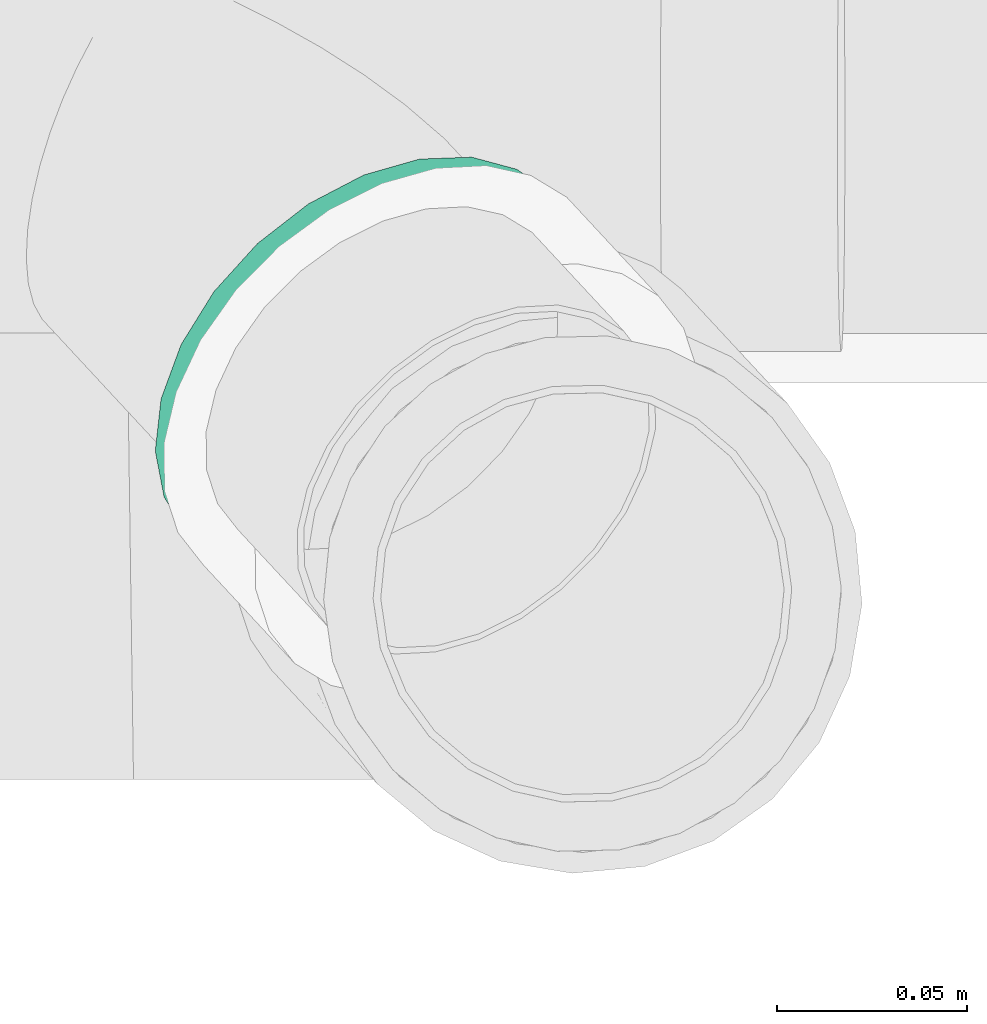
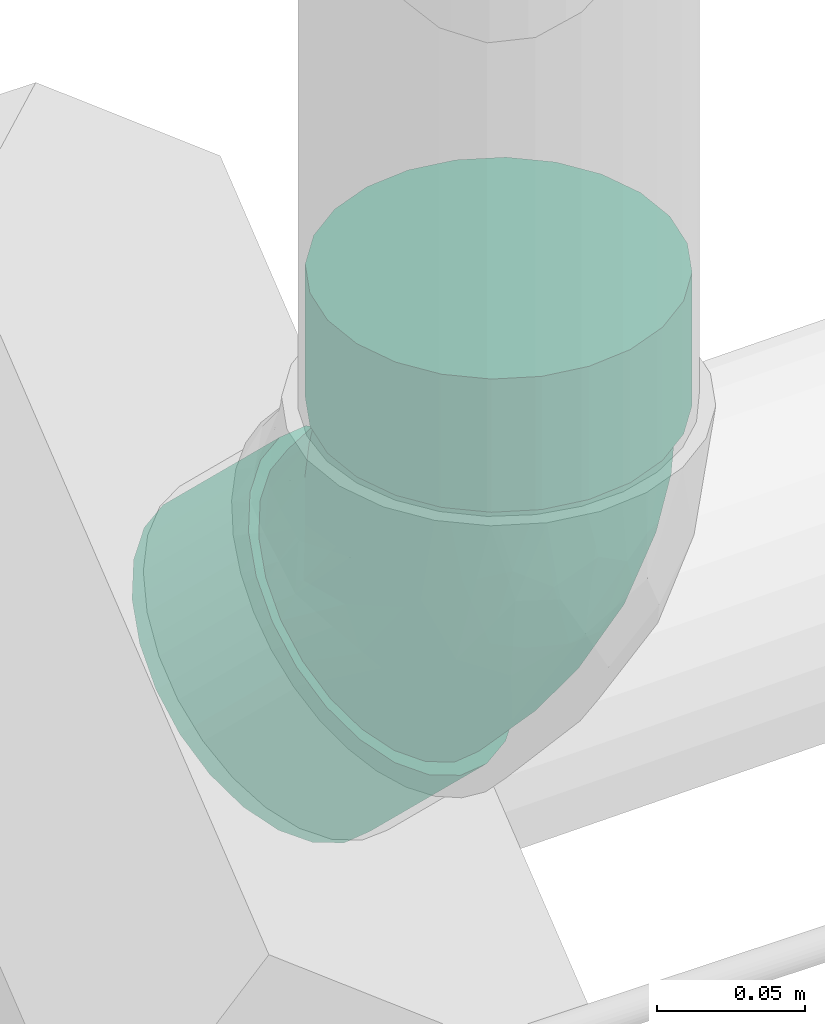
# One storey, part 116 of 156: 1 flow fitting.
"""IFC2X3 building model written with IfcOpenShell, lengths in millimetres."""

import ifcopenshell
import ifcopenshell.guid

model = None  # the IFC model being written
_history = None  # IfcOwnerHistory: only IFC2X3 demands one
_inside = {}  # id of a spatial element -> (the spatial element, [elements in it])
_under = {}  # id of a project, library or spatial element -> (it, [spatial elements below it])
_declared = {}  # id of a project -> (the project, [libraries it declares])
_typed = {}  # id of a type object -> (the type object, [elements of that type])
_made_of = {}  # id of a material, layer set ... -> (it, [elements and type objects made of it])


def new_model(schema):
    """Start an empty IFC model of exactly this schema.

    Asked for "IFC4X3", IfcOpenShell would pick the latest addendum, in which some entities
    have other attributes; the version numbers below select the first issue.
    IFC2X3 requires an IfcOwnerHistory on every rooted entity: one is made here for all.
    """
    global model, _history
    if schema == "IFC4X3":
        model = ifcopenshell.file(schema_version=(4, 3, 0, 0))
    else:
        model = ifcopenshell.file(schema=schema)
    _inside.clear()
    _under.clear()
    _declared.clear()
    _typed.clear()
    _made_of.clear()
    _history = None
    if model.schema == "IFC2X3":
        org = make("IfcOrganization", Name="unknown")
        user = make(
            "IfcPersonAndOrganization",
            ThePerson=make("IfcPerson", FamilyName="unknown"),
            TheOrganization=org,
        )
        app = make(
            "IfcApplication",
            ApplicationDeveloper=org,
            Version="unknown",
            ApplicationFullName="unknown",
            ApplicationIdentifier="unknown",
        )
        _history = make(
            "IfcOwnerHistory",
            OwningUser=user,
            OwningApplication=app,
            ChangeAction="ADDED",
            CreationDate=0,
        )
    return model


def make(cls, **values):
    """One entity of the class cls with the attributes given. An attribute that is None is left unset."""
    return model.create_entity(
        cls, **{name: value for name, value in values.items() if value is not None}
    )


def entity(cls, *values):
    """Any entity or typed value of the class cls, its attributes in the order of the schema. None: left unset."""
    e = model.create_entity(cls)
    for i, value in enumerate(values):
        if value is not None:
            e[i] = value
    return e


def rooted(cls, **values):
    """An entity with a GlobalId (a new one), such as an element, a storey or a relation."""
    return make(cls, GlobalId=ifcopenshell.guid.new(), OwnerHistory=_history, **values)


def si_unit(unit_type, name, prefix=None):
    """IfcSIUnit, for example si_unit("LENGTHUNIT", "METRE", prefix="MILLI")."""
    return make("IfcSIUnit", UnitType=unit_type, Prefix=prefix, Name=name)


def converted_unit(unit_type, name, factor, base, dimensions=None, offset=None):
    """IfcConversionBasedUnit, such as the inch: factor (a typed value) times the base unit."""
    return make(
        "IfcConversionBasedUnit"
        if offset is None
        else "IfcConversionBasedUnitWithOffset",
        ConversionOffset=offset,
        Dimensions=None
        if dimensions is None
        else entity("IfcDimensionalExponents", *dimensions),
        UnitType=unit_type,
        Name=name,
        ConversionFactor=make(
            "IfcMeasureWithUnit", ValueComponent=factor, UnitComponent=base
        ),
    )


def derived_unit(unit_type, elements):
    """IfcDerivedUnit: a product of units, each with its exponent."""
    return make(
        "IfcDerivedUnit",
        Elements=[
            make("IfcDerivedUnitElement", Unit=unit, Exponent=power)
            for unit, power in elements
        ],
        UnitType=unit_type,
    )


def assignment(units):
    """IfcUnitAssignment: the units of a project."""
    return None if units is None else make("IfcUnitAssignment", Units=units)


def point(xyz):
    """IfcCartesianPoint."""
    return None if xyz is None else make("IfcCartesianPoint", Coordinates=xyz)


def direction(xyz):
    """IfcDirection."""
    return None if xyz is None else make("IfcDirection", DirectionRatios=xyz)


def frame(location, z_axis=None, x_axis=None):
    """IfcAxis2Placement3D, a coordinate frame: its origin and axes. An axis left out is left unset."""
    return make(
        "IfcAxis2Placement3D",
        Location=point(location),
        Axis=direction(z_axis),
        RefDirection=direction(x_axis),
    )


def origin_with_axes():
    """The frame at (0, 0, 0) with the z axis (0, 0, 1) and the x axis (1, 0, 0) written out."""
    return frame((0.0, 0.0, 0.0), z_axis=(0.0, 0.0, 1.0), x_axis=(1.0, 0.0, 0.0))


def place(relative_to, where):
    """IfcLocalPlacement: puts the frame where relative to a parent placement (None: the world)."""
    return make(
        "IfcLocalPlacement", PlacementRelTo=relative_to, RelativePlacement=where
    )


def context(
    kind, dimensions, precision=None, world=None, true_north=None, identifier=None
):
    """IfcGeometricRepresentationContext, for example the 3D "Model" context."""
    return make(
        "IfcGeometricRepresentationContext",
        ContextIdentifier=identifier,
        ContextType=kind,
        CoordinateSpaceDimension=dimensions,
        Precision=precision,
        WorldCoordinateSystem=world,
        TrueNorth=true_north,
    )


def subcontext(parent, identifier, kind, view, scale=None):
    """IfcGeometricRepresentationSubContext, for example "Body" below "Model"."""
    return make(
        "IfcGeometricRepresentationSubContext",
        ContextIdentifier=identifier,
        ContextType=kind,
        ParentContext=parent,
        TargetScale=scale,
        TargetView=view,
    )


def project(units=None, contexts=None):
    """IfcProject with its units and contexts."""
    return rooted(
        "IfcProject",
        Name="project",
        RepresentationContexts=contexts,
        UnitsInContext=assignment(units),
    )


def spatial(cls, under=None, at=None, **own):
    """A site, building, storey or space (cls), placed at a placement, below another one or the project."""
    s = rooted(cls, ObjectPlacement=at, **own)
    if under is not None:
        _under.setdefault(under.id(), (under, []))[1].append(s)
    return s


def faces_of(points, faces, orient=None, outer=None):
    """IfcFace entities. A face is a list of loops; a loop is a list of indices into points, from 0.

    orient and outer hold one flag for each loop. By default every Orientation is true, the
    first loop of a face is its IfcFaceOuterBound and the others are IfcFaceBound.
    """
    made = []
    for i, loops in enumerate(faces):
        bounds = []
        for j, loop in enumerate(loops):
            is_outer = j == 0 if outer is None else outer[i][j]
            bounds.append(
                make(
                    "IfcFaceOuterBound" if is_outer else "IfcFaceBound",
                    Bound=make("IfcPolyLoop", Polygon=[points[k] for k in loop]),
                    Orientation=True if orient is None else orient[i][j],
                )
            )
        made.append(make("IfcFace", Bounds=bounds))
    return made


def open_shell(faces, orient=None, outer=None):
    """The faces of one IfcOpenShell. surface_model builds it on its shared points."""
    return ("IfcOpenShell", faces, orient, outer)


def surface_model(cls, points, shells):
    """IfcFaceBasedSurfaceModel or IfcShellBasedSurfaceModel (cls): surfaces that need not close."""
    shared = [point(p) for p in points]
    made = [make(c, CfsFaces=faces_of(shared, fs, o, b)) for c, fs, o, b in shells]
    if cls == "IfcFaceBasedSurfaceModel":
        return make(cls, FbsmFaces=made)
    return make(cls, SbsmBoundary=made)


def shape(context_of_items, identifier, shape_type, items):
    """IfcShapeRepresentation: the items that make up one representation, for example the "Body"."""
    return make(
        "IfcShapeRepresentation",
        ContextOfItems=context_of_items,
        RepresentationIdentifier=identifier,
        RepresentationType=shape_type,
        Items=items,
    )


def source(mapping_origin, context_of_items, identifier, shape_type, items):
    """IfcRepresentationMap: a shape defined once, which mapped items show again and again."""
    return make(
        "IfcRepresentationMap",
        MappingOrigin=mapping_origin,
        MappedRepresentation=shape(context_of_items, identifier, shape_type, items),
    )


def transform(
    local_origin,
    x_axis=None,
    y_axis=None,
    z_axis=None,
    scale=None,
    scale2=None,
    scale3=None,
    uniform=True,
):
    """IfcCartesianTransformationOperator3D, or its non-uniform kind. x_axis, y_axis, z_axis: its Axis1, 2, 3."""
    if uniform:
        return make(
            "IfcCartesianTransformationOperator3D",
            Axis1=direction(x_axis),
            Axis2=direction(y_axis),
            LocalOrigin=point(local_origin),
            Scale=scale,
            Axis3=direction(z_axis),
        )
    return make(
        "IfcCartesianTransformationOperator3DnonUniform",
        Axis1=direction(x_axis),
        Axis2=direction(y_axis),
        LocalOrigin=point(local_origin),
        Scale=scale,
        Axis3=direction(z_axis),
        Scale2=scale2,
        Scale3=scale3,
    )


def mapped(mapping_source, mapping_target):
    """IfcMappedItem: shows the shape of a source again, moved by a transform."""
    return make(
        "IfcMappedItem", MappingSource=mapping_source, MappingTarget=mapping_target
    )


def made_of(thing, what):
    """Note that an element or type object is made of a material, layer set ...; save() writes the relation."""
    if what is not None:
        _made_of.setdefault(what.id(), (what, []))[1].append(thing)
    return thing


def type_object(cls, material=None, **own):
    """A type object (cls), such as IfcWallType, which elements share."""
    return made_of(rooted(cls, **own), material)


def element(
    cls,
    number,
    at=None,
    inside=None,
    cuts=None,
    type_object=None,
    material=None,
    context=None,
    identifier="Body",
    shape_type=None,
    held_by="IfcProductDefinitionShape",
    body=None,
    shapes=None,
    **own,
):
    """One element of the class cls, such as IfcWall. Its Tag is "e" and its number.

    at: its placement. inside: the storey or other place that contains it. cuts: it is an
    opening in that element (IfcRelVoidsElement). A single representation is given by context,
    identifier, shape_type and body (its items); several are given by shapes. held_by: the class
    of the entity that holds the representations. save() writes the other relations.
    """
    e = rooted(cls, Tag="e%d" % number, ObjectPlacement=at, **own)
    if body is not None:
        shapes = [shape(context, identifier, shape_type, body)]
    if shapes is not None:
        e.Representation = make(held_by, Representations=shapes)
    if inside is not None:
        _inside.setdefault(inside.id(), (inside, []))[1].append(e)
    if cuts is not None:
        rooted(
            "IfcRelVoidsElement", RelatingBuildingElement=cuts, RelatedOpeningElement=e
        )
    if type_object is not None:
        _typed.setdefault(type_object.id(), (type_object, []))[1].append(e)
    return made_of(e, material)


def aggregate(whole, parts):
    """IfcRelAggregates: a whole, such as a stair, and the parts it consists of."""
    return rooted("IfcRelAggregates", RelatingObject=whole, RelatedObjects=parts)


def save(model, path):
    """Write the relations noted so far, then the file.

    IfcRelAggregates (storeys below a building ...), IfcRelContainedInSpatialStructure (elements
    in a storey), IfcRelDefinesByType, IfcRelAssociatesMaterial and IfcRelDeclares: one each for
    every whole, place, type object, material and project.
    """
    for whole, parts in _under.values():
        aggregate(whole, parts)
    for where, things in _inside.values():
        rooted(
            "IfcRelContainedInSpatialStructure",
            RelatedElements=things,
            RelatingStructure=where,
        )
    for kind, things in _typed.values():
        rooted("IfcRelDefinesByType", RelatedObjects=things, RelatingType=kind)
    for what, things in _made_of.values():
        rooted("IfcRelAssociatesMaterial", RelatedObjects=things, RelatingMaterial=what)
    for by, libraries in _declared.values():
        rooted("IfcRelDeclares", RelatingContext=by, RelatedDefinitions=libraries)
    model.write(path)


model = new_model("IFC2X3")

# Units and contexts
model_context = context("Model", 3, precision=0.01, world=frame((0.0, 4.29681676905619e-09, 0.0)), true_north=direction((4.01073788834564e-13, 1.0)))
plan_context = context("Plan", 3, precision=0.01, world=frame((0.0, 4.29681676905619e-09, 0.0)), true_north=direction((4.01073788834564e-13, 1.0)))
body_context = subcontext(model_context, "Body", "Model", "MODEL_VIEW")
ifc_project = project(units=[converted_unit("PLANEANGLEUNIT", "DEGREE", entity("IfcPositiveLengthMeasure", 0.0174532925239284), si_unit("PLANEANGLEUNIT", "RADIAN"), dimensions=[0, 0, 0, 0, 0, 0, 0]), si_unit("AREAUNIT", "SQUARE_METRE"), si_unit("LENGTHUNIT", "METRE", prefix="MILLI"), si_unit("MASSUNIT", "GRAM", prefix="KILO"), si_unit("POWERUNIT", "WATT"), si_unit("PRESSUREUNIT", "PASCAL", prefix="KILO"), si_unit("FORCEUNIT", "NEWTON", prefix="KILO"), si_unit("ELECTRICVOLTAGEUNIT", "VOLT"), si_unit("ELECTRICCURRENTUNIT", "AMPERE"), si_unit("THERMODYNAMICTEMPERATUREUNIT", "DEGREE_CELSIUS"), si_unit("TIMEUNIT", "SECOND"), si_unit("VOLUMEUNIT", "CUBIC_METRE"), derived_unit("LINEARVELOCITYUNIT", [(si_unit("LENGTHUNIT", "METRE"), 1), (si_unit("TIMEUNIT", "SECOND"), -1)]), derived_unit("VOLUMETRICFLOWRATEUNIT", [(si_unit("VOLUMEUNIT", "CUBIC_METRE"), 1), (si_unit("TIMEUNIT", "SECOND"), -1)]), derived_unit("THERMALTRANSMITTANCEUNIT", [(si_unit("POWERUNIT", "WATT"), 1), (si_unit("THERMODYNAMICTEMPERATUREUNIT", "KELVIN"), -1), (si_unit("AREAUNIT", "SQUARE_METRE"), -1)]), derived_unit("SOUNDPRESSUREUNIT", [(si_unit("PRESSUREUNIT", "PASCAL"), 1)])], contexts=[model_context, plan_context])

# Site, building, storey
site_placement = place(None, frame((0.0, -4.29681676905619e-09, 0.0), z_axis=(0.0, 0.0, 1.0), x_axis=(1.0, 0.0, 0.0)))
site = spatial("IfcSite", under=ifc_project, at=site_placement, CompositionType="ELEMENT")
building_placement = place(site_placement, frame((0.0, 4.29681676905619e-09, 0.0), z_axis=(0.0, 0.0, 1.0), x_axis=(1.0, 0.0, 0.0)))
building = spatial("IfcBuilding", under=site, at=building_placement, Name="mc-building", CompositionType="ELEMENT")
storey_placement = place(building_placement, frame((0.0, 0.0, 205200.0), z_axis=(0.0, 0.0, 1.0), x_axis=(1.0, 0.0, 0.0)))
storey = spatial("IfcBuildingStorey", under=building, at=storey_placement, Name="Nivå D + 1,2 m", CompositionType="ELEMENT", Elevation=205200.0)

# Flow fitting
pipe_fitting_type = type_object("IfcPipeFittingType", Name="magi_sewer_bend_001", PredefinedType="BEND")
shared_shape = source(origin_with_axes(), body_context, "Body", "SurfaceModel", [
    surface_model("IfcShellBasedSurfaceModel", [(-109.5789, -16.95265, -63.26814), (-109.5789, -32.75, -56.72466), (-109.5789, -46.3155, -46.3155), (-109.5789, -63.26814, -16.95265), (-109.5789, 56.72466, -32.75), (-109.5789, 65.5, 0.0), (-109.5789, -56.72466, -32.75), (-109.5789, 16.95265, -63.26814), (-109.5789, 46.3155, -46.3155), (-109.5789, 32.75, -56.72466), (-109.5789, 0.0, -65.5), (-109.5789, 63.26814, -16.95265), (-109.5789, -65.5, 0.0), (-109.5789, -63.26814, 16.95265), (-109.5789, -56.72466, 32.75), (-109.5789, -46.3155, 46.3155), (-109.5789, -16.95265, 63.26814), (-109.5789, 0.0, 65.5), (-109.5789, -32.75, 56.72466), (-109.5789, 63.26814, 16.95265), (-109.5789, 46.3155, 46.3155), (-109.5789, 56.72466, 32.75), (-109.5789, 16.95265, 63.26814), (-109.5789, 32.75, 56.72466), (-54.5789, -16.95265, 63.26814), (-54.5789, 16.95265, 63.26814), (-54.5789, 0.0, 65.5), (-54.5789, -46.3155, 46.3155), (-54.5789, -32.75, 56.72466), (-54.5789, -56.72466, 32.75), (-54.5789, -63.26814, 16.95265), (-54.5789, 46.3155, 46.3155), (-54.5789, 32.75, 56.72466), (-54.5789, 63.26814, 16.95265), (-54.5789, 56.72466, 32.75), (-54.5789, 63.26814, -16.95265), (-54.5789, 65.5, 0.0), (-54.5789, -63.26814, -16.95265), (-54.5789, 32.75, -56.72466), (-54.5789, -65.5, 0.0), (-54.5789, -16.95265, -63.26814), (-54.5789, -56.72466, -32.75), (-54.5789, -46.3155, -46.3155), (-54.5789, -32.75, -56.72466), (-54.5789, 0.0, -65.5), (-54.5789, 46.3155, -46.3155), (-54.5789, 56.72466, -32.75), (-54.5789, 16.95265, -63.26814), (25.10084, 124.0175, 16.95265), (30.00593, 119.68654, 32.75), (37.80879, 112.79697, 46.3155), (47.97768, 103.81831, -56.72466), (59.8196, 93.36243, 63.26814), (47.97768, 103.81831, 56.72466), (85.23549, 70.92137, -63.26814), (25.10084, 124.0175, -16.95265), (37.80879, 112.79697, -46.3155), (30.00593, 119.68654, -32.75), (23.42781, 125.49472, 0.0), (72.52754, 82.1419, -65.5), (59.8196, 93.36243, -63.26814), (72.52754, 82.1419, 65.5), (85.23549, 70.92137, 63.26814), (97.0774, 60.4655, 56.72466), (107.24629, 51.48683, 46.3155), (119.95423, 40.2663, 16.95265), (115.04915, 44.59726, 32.75), (119.95423, 40.2663, -16.95265), (121.62727, 38.78908, 0.0), (107.24629, 51.48683, -46.3155), (97.0774, 60.4655, -56.72466), (115.04915, 44.59726, -32.75), (70.84316, 10.25805, 46.3155), (85.22414, -2.43969, 0.0), (83.55111, -0.96248, 16.95265), (78.64603, 3.36848, 32.75), (60.67428, 19.23671, 56.72466), (48.83236, 29.69259, 63.26814), (83.55111, -0.96248, -16.95265), (70.84316, 10.25805, -46.3155), (78.64603, 3.36848, -32.75), (48.83236, 29.69259, -63.26814), (60.67428, 19.23671, -56.72466), (23.41647, 52.13365, -63.26814), (36.12441, 40.91312, -65.5), (23.41647, 52.13365, 63.26814), (-11.30228, 82.78872, 16.95265), (11.57455, 62.58953, 56.72466), (1.40566, 71.56819, 46.3155), (-6.3972, 78.45776, 32.75), (1.40566, 71.56819, -46.3155), (11.57455, 62.58953, -56.72466), (-11.30228, 82.78872, -16.95265), (-6.3972, 78.45776, -32.75), (-12.97532, 84.26593, 0.0), (36.12441, 40.91312, 65.5), (-54.5789, 15.65855, -58.43851), (-54.5789, 0.0, -60.5), (-54.5789, 58.43851, -15.65855), (-54.5789, 30.25, -52.39454), (-54.5789, 52.39454, -30.25), (-54.5789, 42.77996, -42.77996), (-54.5789, -60.5, 0.0), (-54.5789, -30.25, -52.39454), (-54.5789, -42.77996, -42.77996), (-54.5789, -15.65855, -58.43851), (-54.5789, -58.43851, -15.65855), (-54.5789, -52.39454, -30.25), (-54.5789, -58.43851, 15.65855), (-54.5789, 58.43851, 15.65855), (-54.5789, 52.39454, 30.25), (-54.5789, 42.77996, 42.77996), (-54.5789, 30.25, 52.39454), (-54.5789, 15.65855, 58.43851), (-54.5789, -52.39454, 30.25), (-54.5789, -42.77996, 42.77996), (-54.5789, -30.25, 52.39454), (-54.5789, -15.65855, 58.43851), (-54.5789, 0.0, 60.5), (-54.5789, 60.5, 0.0), (-7.68192, 79.59212, -15.65855), (36.12441, 40.91312, -60.5), (24.38654, 51.27713, -58.43851), (13.44858, 60.93484, -52.39454), (4.05595, 69.22811, -42.77996), (-3.15127, 75.59176, -30.25), (79.93075, 2.23413, 15.65855), (47.86229, 30.54912, -58.43851), (58.80024, 20.8914, -52.39454), (75.4001, 6.23448, -30.25), (68.19288, 12.59813, -42.77996), (81.47607, 0.86968, 0.0), (79.93075, 2.23413, -15.65855), (-7.68192, 79.59212, 15.65855), (4.05595, 69.22811, 42.77996), (-3.15127, 75.59176, 30.25), (13.44858, 60.93484, 52.39454), (24.38654, 51.27713, 58.43851), (68.19288, 12.59813, 42.77996), (75.4001, 6.23448, 30.25), (58.80024, 20.8914, 52.39454), (36.12441, 40.91312, 60.5), (47.86229, 30.54912, 58.43851), (-9.22724, 80.95656, 0.0), (15.97149, -35.40838, 33.18957), (-16.03844, -33.97264, 46.50907), (-23.60213, -46.29283, 35.29657), (-28.62062, -57.50378, 11.58039), (-16.41159, -56.44156, 0.0), (50.32342, -12.94757, 35.29657), (-25.92741, -21.96052, 55.18192), (6.14956, -13.63341, 54.29158), (15.28357, 30.18581, 60.15813), (-2.13533, 4.73398, 60.14477), (-32.74353, 8.52245, 60.15813), (-21.20548, -5.72521, 59.66009), (-19.06241, 42.26087, 49.61464), (-2.0019, 54.08819, 48.69537), (-12.14085, 57.16001, 41.15927), (33.62262, 4.90044, 55.18192), (-39.22027, 37.30027, 48.69537), (-13.15721, -51.95234, 20.71424), (-4.80064, -52.71763, 9.75208), (-30.87474, 50.72527, 38.29776), (-27.45478, 60.86654, 25.13379), (54.84286, -22.56883, 10.88074), (47.65264, -24.52313, 20.71424), (36.13851, -35.28737, 9.75713), (-25.67606, 66.28162, 12.86083), (-26.93311, 25.20746, 56.62727), (18.36667, -41.82326, 19.06798), (36.08182, -10.46301, 46.50907), (18.32708, 12.10655, 59.66009), (-6.71898, 14.8958, 60.32477), (0.22741, 37.8431, 56.5862), (10.76377, -23.86301, 47.14307), (-29.70299, 65.85075, 0.0), (20.04883, -44.44773, 0.0), (53.17182, -25.0549, 0.0), (-21.20548, -5.72522, -59.66009), (47.65264, -24.52313, -20.71424), (62.04892, -16.60589, -11.58039), (42.6953, -31.29386, -9.75207), (18.32708, 12.10655, -59.66009), (-32.74353, 8.52245, -60.15813), (-34.81223, 46.93374, -41.15927), (-27.45479, 60.86654, -25.13379), (36.08182, -10.46301, -46.50907), (-17.58917, 56.71794, -38.29775), (-32.69131, 63.11729, -12.86083), (-1.06952, 36.87363, -56.62727), (-19.3812, -56.04873, -10.88074), (-13.15721, -51.95234, -20.71424), (2.53273, -50.44577, -9.75713), (-28.51824, 24.87693, -56.5862), (-16.03844, -33.97265, -46.50907), (-23.60213, -46.29283, -35.29657), (-25.92741, -21.96052, -55.18192), (6.14956, -13.63341, -54.29158), (-19.06242, 42.26087, -49.61464), (-39.22027, 37.30027, -48.69537), (19.19487, -41.44969, -19.06798), (-2.0019, 54.08819, -48.69537), (10.76377, -23.86301, -47.14307), (33.62262, 4.90044, -55.18192), (15.97149, -35.40838, -33.18956), (-2.13533, 4.73398, -60.14477), (-6.71898, 14.8958, -60.32477), (15.28357, 30.18581, -60.15813), (50.32342, -12.94757, -35.29657)], [open_shell([[[0, 1, 2]], [[0, 2, 3]], [[4, 0, 5]], [[3, 2, 6]], [[3, 5, 0]], [[7, 8, 9]], [[8, 7, 10]], [[0, 8, 10]], [[0, 4, 8]], [[4, 5, 11]], [[5, 3, 12]], [[13, 14, 15]], [[5, 13, 15]], [[16, 17, 15]], [[16, 15, 18]], [[5, 15, 17]], [[19, 20, 21]], [[22, 19, 5]], [[20, 22, 23]], [[22, 20, 19]], [[5, 17, 22]], [[13, 5, 12]], [[24, 25, 26]], [[27, 24, 28]], [[27, 29, 30]], [[24, 27, 25]], [[30, 25, 27]], [[25, 31, 32]], [[31, 25, 33]], [[31, 33, 34]], [[25, 30, 33]], [[33, 35, 36]], [[33, 30, 35]], [[37, 38, 39]], [[40, 37, 41]], [[42, 43, 40]], [[42, 40, 41]], [[44, 37, 40]], [[39, 45, 46]], [[46, 35, 39]], [[38, 44, 47]], [[38, 45, 39]], [[38, 37, 44]], [[39, 35, 30]], [[35, 11, 36]], [[46, 4, 35]], [[47, 44, 7]], [[45, 8, 46]], [[35, 4, 11]], [[11, 5, 36]], [[9, 38, 7]], [[9, 8, 45]], [[38, 47, 7]], [[8, 4, 46]], [[45, 38, 9]], [[44, 10, 7]], [[0, 40, 43]], [[42, 1, 43]], [[6, 41, 37]], [[42, 41, 2]], [[3, 37, 39]], [[40, 0, 10]], [[43, 1, 0]], [[42, 2, 1]], [[41, 6, 2]], [[3, 6, 37]], [[39, 12, 3]], [[40, 10, 44]], [[30, 13, 39]], [[29, 14, 30]], [[28, 18, 27]], [[27, 15, 29]], [[30, 14, 13]], [[13, 12, 39]], [[17, 16, 24]], [[16, 18, 28]], [[15, 27, 18]], [[15, 14, 29]], [[24, 16, 28]], [[24, 26, 17]], [[22, 25, 32]], [[31, 23, 32]], [[21, 34, 33]], [[31, 34, 20]], [[19, 33, 36]], [[25, 22, 17]], [[32, 23, 22]], [[31, 20, 23]], [[34, 21, 20]], [[19, 21, 33]], [[36, 5, 19]], [[25, 17, 26]], [[48, 49, 50]], [[51, 48, 50]], [[51, 50, 52]], [[52, 50, 53]], [[52, 54, 51]], [[55, 56, 57]], [[55, 58, 48]], [[48, 56, 55]], [[51, 56, 48]], [[51, 59, 60]], [[52, 61, 62]], [[62, 63, 64]], [[62, 64, 65]], [[62, 65, 54]], [[65, 64, 66]], [[67, 65, 68]], [[54, 69, 70]], [[59, 51, 54]], [[69, 67, 71]], [[69, 54, 65]], [[67, 69, 65]], [[54, 52, 62]], [[72, 73, 74]], [[72, 74, 75]], [[72, 76, 77]], [[73, 72, 78]], [[78, 72, 77]], [[78, 79, 80]], [[79, 78, 81]], [[79, 81, 82]], [[81, 78, 83]], [[81, 83, 84]], [[83, 78, 77]], [[83, 77, 85]], [[86, 85, 87]], [[88, 89, 86]], [[88, 86, 87]], [[90, 85, 86]], [[83, 90, 91]], [[83, 85, 90]], [[90, 92, 93]], [[90, 86, 92]], [[94, 92, 86]], [[85, 77, 95]], [[83, 60, 84]], [[91, 51, 83]], [[92, 94, 55]], [[90, 56, 91]], [[83, 51, 60]], [[60, 59, 84]], [[57, 93, 55]], [[57, 56, 90]], [[93, 92, 55]], [[56, 51, 91]], [[90, 93, 57]], [[94, 58, 55]], [[48, 86, 89]], [[88, 49, 89]], [[53, 87, 85]], [[88, 87, 50]], [[52, 85, 95]], [[86, 48, 58]], [[89, 49, 48]], [[88, 50, 49]], [[87, 53, 50]], [[52, 53, 85]], [[95, 61, 52]], [[86, 58, 94]], [[77, 62, 95]], [[76, 63, 77]], [[75, 66, 72]], [[72, 64, 76]], [[77, 63, 62]], [[62, 61, 95]], [[68, 65, 74]], [[65, 66, 75]], [[64, 72, 66]], [[64, 63, 76]], [[74, 65, 75]], [[74, 73, 68]], [[67, 78, 80]], [[79, 71, 80]], [[70, 82, 81]], [[79, 82, 69]], [[54, 81, 84]], [[78, 67, 68]], [[80, 71, 67]], [[79, 69, 71]], [[82, 70, 69]], [[54, 70, 81]], [[84, 59, 54]], [[78, 68, 73]], [[96, 97, 98]], [[99, 96, 98]], [[98, 100, 101]], [[99, 98, 101]], [[102, 98, 97]], [[103, 104, 105]], [[104, 97, 105]], [[106, 102, 107]], [[104, 107, 102]], [[104, 102, 97]], [[102, 108, 98]], [[109, 98, 108]], [[110, 109, 111]], [[112, 109, 108]], [[111, 109, 112]], [[113, 112, 108]], [[114, 115, 108]], [[116, 108, 115]], [[117, 118, 116]], [[108, 116, 118]], [[118, 113, 108]], [[119, 98, 109]], [[120, 121, 122]], [[120, 122, 123]], [[124, 125, 120]], [[124, 120, 123]], [[126, 127, 121]], [[128, 129, 130]], [[126, 131, 128]], [[129, 131, 132]], [[131, 129, 128]], [[126, 128, 127]], [[121, 120, 126]], [[126, 120, 133]], [[134, 133, 135]], [[133, 136, 126]], [[136, 133, 134]], [[137, 126, 136]], [[126, 138, 139]], [[138, 126, 140]], [[140, 141, 142]], [[141, 140, 126]], [[126, 137, 141]], [[133, 120, 143]], [[144, 145, 146]], [[147, 102, 148]], [[116, 115, 145]], [[139, 138, 149]], [[150, 145, 151]], [[146, 145, 115]], [[141, 137, 152]], [[117, 116, 150]], [[153, 154, 155]], [[118, 117, 155]], [[156, 157, 158]], [[140, 142, 159]], [[136, 134, 157]], [[111, 112, 160]], [[161, 147, 162]], [[110, 163, 164]], [[113, 118, 154]], [[147, 161, 114]], [[165, 166, 167]], [[164, 168, 109]], [[147, 114, 108]], [[119, 109, 168]], [[109, 110, 164]], [[115, 114, 146]], [[160, 169, 156]], [[161, 162, 170]], [[144, 161, 170]], [[112, 113, 169]], [[138, 140, 171]], [[166, 139, 149]], [[126, 139, 166]], [[141, 152, 172]], [[144, 146, 161]], [[138, 171, 149]], [[173, 152, 174]], [[171, 140, 159]], [[114, 161, 146]], [[131, 126, 165]], [[144, 149, 171]], [[154, 169, 113]], [[110, 111, 163]], [[164, 158, 135]], [[145, 175, 151]], [[164, 133, 168]], [[149, 144, 166]], [[176, 168, 143]], [[153, 173, 154]], [[156, 169, 174]], [[150, 155, 117]], [[136, 174, 137]], [[153, 151, 172]], [[164, 163, 158]], [[142, 141, 172]], [[135, 133, 164]], [[159, 172, 151]], [[166, 170, 167]], [[160, 163, 111]], [[175, 144, 171]], [[174, 136, 157]], [[173, 174, 169]], [[145, 150, 116]], [[155, 150, 151]], [[172, 159, 142]], [[171, 159, 151]], [[155, 154, 118]], [[169, 154, 173]], [[174, 152, 137]], [[152, 173, 153]], [[169, 160, 112]], [[163, 160, 156]], [[158, 157, 134]], [[174, 157, 156]], [[135, 158, 134]], [[156, 158, 163]], [[102, 147, 108]], [[162, 147, 148]], [[148, 177, 162]], [[177, 167, 170]], [[177, 170, 162]], [[166, 144, 170]], [[177, 178, 167]], [[165, 167, 178]], [[131, 165, 178]], [[126, 166, 165]], [[144, 175, 145]], [[171, 151, 175]], [[143, 168, 133]], [[168, 176, 119]], [[151, 153, 155]], [[152, 153, 172]], [[179, 105, 97]], [[180, 181, 182]], [[121, 127, 183]], [[96, 184, 97]], [[185, 100, 186]], [[128, 130, 187]], [[188, 185, 186]], [[181, 129, 132]], [[98, 189, 186]], [[123, 122, 190]], [[191, 192, 193]], [[99, 194, 96]], [[104, 195, 196]], [[197, 179, 198]], [[102, 106, 191]], [[199, 200, 185]], [[201, 193, 192]], [[202, 188, 124]], [[104, 103, 195]], [[187, 203, 198]], [[204, 183, 127]], [[192, 106, 107]], [[197, 103, 105]], [[104, 196, 107]], [[125, 124, 188]], [[196, 205, 192]], [[119, 176, 189]], [[192, 107, 196]], [[143, 120, 189]], [[206, 207, 208]], [[124, 123, 202]], [[186, 100, 98]], [[125, 188, 186]], [[197, 195, 103]], [[199, 202, 190]], [[184, 179, 97]], [[199, 190, 194]], [[101, 200, 99]], [[181, 180, 129]], [[208, 122, 121]], [[204, 127, 128]], [[180, 182, 201]], [[130, 209, 187]], [[198, 204, 187]], [[203, 205, 195]], [[208, 183, 206]], [[209, 205, 187]], [[206, 198, 179]], [[178, 181, 131]], [[207, 184, 194]], [[129, 180, 209]], [[180, 201, 205]], [[120, 125, 186]], [[130, 129, 209]], [[205, 209, 180]], [[120, 186, 189]], [[205, 196, 195]], [[208, 190, 122]], [[194, 99, 200]], [[207, 194, 190]], [[179, 197, 105]], [[195, 197, 198]], [[187, 204, 128]], [[183, 204, 198]], [[194, 184, 96]], [[184, 207, 206]], [[183, 208, 121]], [[190, 208, 207]], [[185, 200, 101]], [[194, 200, 199]], [[100, 185, 101]], [[199, 185, 188]], [[190, 202, 123]], [[188, 202, 199]], [[131, 181, 132]], [[182, 181, 178]], [[178, 177, 182]], [[177, 193, 201]], [[177, 201, 182]], [[192, 205, 201]], [[177, 148, 193]], [[191, 193, 148]], [[102, 191, 148]], [[106, 192, 191]], [[205, 203, 187]], [[195, 198, 203]], [[119, 189, 98]], [[189, 176, 143]], [[198, 206, 183]], [[184, 206, 179]]])]),
])
flow_fitting_placement = place(storey_placement, frame((325465.89291, 462601.38941, 4323.45942999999), z_axis=(0.732870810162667, 0.680367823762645, 0.0), x_axis=(0.0, 0.0, -1.0)))
element("IfcFlowFitting", 1, at=flow_fitting_placement, inside=storey, type_object=pipe_fitting_type, Name="magi_sewer_bend_001", context=body_context, shape_type="MappedRepresentation", body=[
    mapped(shared_shape, transform((0.0, 0.0, 0.0), scale=1.0)),
])

save(model, "model.ifc")
